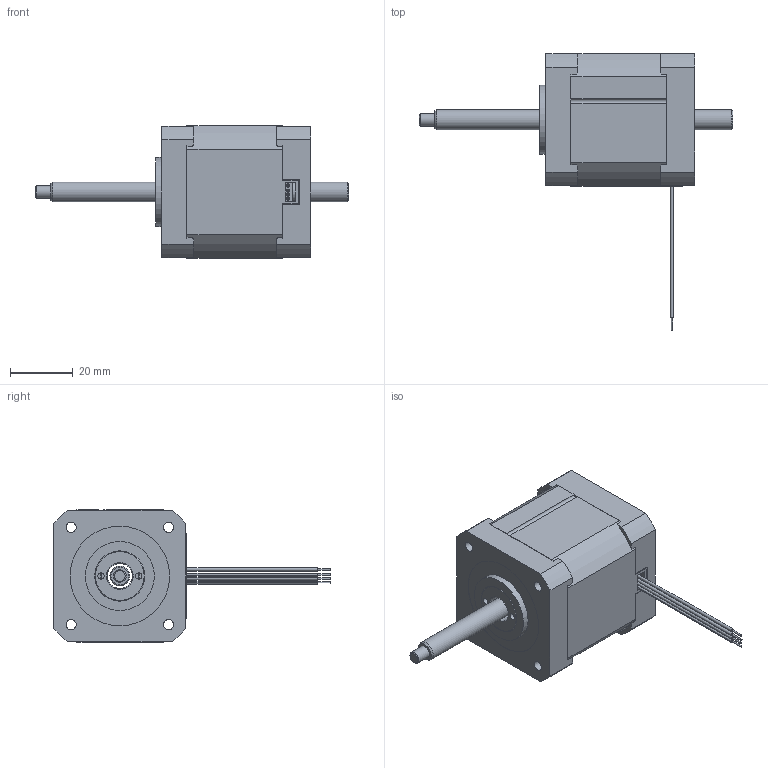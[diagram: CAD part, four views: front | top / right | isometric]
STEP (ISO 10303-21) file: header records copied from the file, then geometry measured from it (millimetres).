
FILE_DESCRIPTION( ('This file contains a STEP AP42 implementation' ,'as created by ZW3D STEP Interface translator.' ,'') ,'2;1' );
FILE_NAME( '42NC4X-XX-XXX_潠趙婦釐.stp' ,'251231. 85410', (''), ('ZWCAD Software Co.'), 'Version 1.0', 'ZW3D to STEP translator', '' );
FILE_SCHEMA(('AUTOMOTIVE_DESIGN { 1 0 10303 214 1 1 1 1 }'));
Length unit declared in the file: millimetre
Products named in the file (1): 0
Bounding box: 100 x 88.2 x 42.2 mm (x, y, z)
Volume: 33587.6 mm3; surface area: 30570.8 mm2
Topology: 4 solids, 4 shells, 614 faces, 1636 edges, 1067 vertices
Faces by surface type: plane 406, cylinder 151, torus 36, cone 21
Full cylindrical faces by diameter (mm): 0.5 x12, 1 x2, 2 x2, 3.2 x4, 3.3 x4, 4 x1, 6 x4, 6.35 x1, 8.5 x1, 9 x1, 16 x3, 22 x3, 26.8 x1, 31.75 x1
Entity records: 19718 total; most frequent: CARTESIAN_POINT 3353, DIRECTION 3313, ORIENTED_EDGE 3272, EDGE_CURVE 1636, AXIS2_PLACEMENT_3D 1131, VERTEX_POINT 1067, VECTOR 1051, LINE 1051
